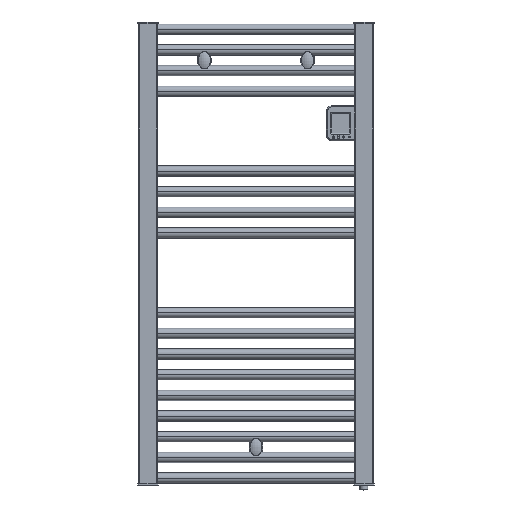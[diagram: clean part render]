
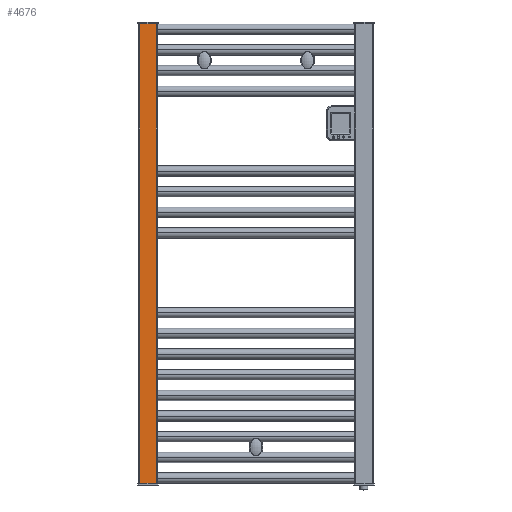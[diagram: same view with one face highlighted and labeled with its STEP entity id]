
A CAD part, top view. The second image highlights one B-rep face of the part: STEP entity #4676.
In plain terms, the highlighted planar face has unit normal (0, 0, 1).
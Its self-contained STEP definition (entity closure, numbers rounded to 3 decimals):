
#1842=DIRECTION('',(0.,1.,0.));
#1843=VECTOR('',#1842,979.);
#1844=CARTESIAN_POINT('',(-212.,4.,15.));
#1845=LINE('',#1844,#1843);
#1849=DIRECTION('',(1.,0.,0.));
#1850=VECTOR('',#1849,36.);
#1851=CARTESIAN_POINT('',(-248.,983.,15.));
#1852=LINE('',#1851,#1850);
#1856=DIRECTION('',(1.,0.,0.));
#1857=VECTOR('',#1856,36.);
#1858=CARTESIAN_POINT('',(-248.,4.,15.));
#1859=LINE('',#1858,#1857);
#1863=DIRECTION('',(0.,1.,0.));
#1864=VECTOR('',#1863,979.);
#1865=CARTESIAN_POINT('',(-248.,4.,15.));
#1866=LINE('',#1865,#1864);
#2918=CARTESIAN_POINT('',(-248.,4.,15.));
#2919=VERTEX_POINT('',#2918);
#2920=CARTESIAN_POINT('',(-212.,4.,15.));
#2921=VERTEX_POINT('',#2920);
#3142=CARTESIAN_POINT('',(-248.,983.,15.));
#3143=VERTEX_POINT('',#3142);
#3144=CARTESIAN_POINT('',(-212.,983.,15.));
#3145=VERTEX_POINT('',#3144);
#4664=CARTESIAN_POINT('',(-248.,0.,15.));
#4665=DIRECTION('',(0.,0.,1.));
#4666=DIRECTION('',(1.,0.,0.));
#4667=AXIS2_PLACEMENT_3D('',#4664,#4665,#4666);
#4668=PLANE('',#4667);
#4669=ORIENTED_EDGE('',*,*,#3965,.T.);
#4670=ORIENTED_EDGE('',*,*,#4659,.F.);
#4671=ORIENTED_EDGE('',*,*,#3651,.F.);
#4673=ORIENTED_EDGE('',*,*,#4672,.T.);
#4674=EDGE_LOOP('',(#4669,#4670,#4671,#4673));
#4675=FACE_OUTER_BOUND('',#4674,.F.);
#3651=EDGE_CURVE('',#2919,#2921,#1859,.T.);
#3965=EDGE_CURVE('',#3143,#3145,#1852,.T.);
#4659=EDGE_CURVE('',#2921,#3145,#1845,.T.);
#4672=EDGE_CURVE('',#2919,#3143,#1866,.T.);
#4676=ADVANCED_FACE('',(#4675),#4668,.T.);
